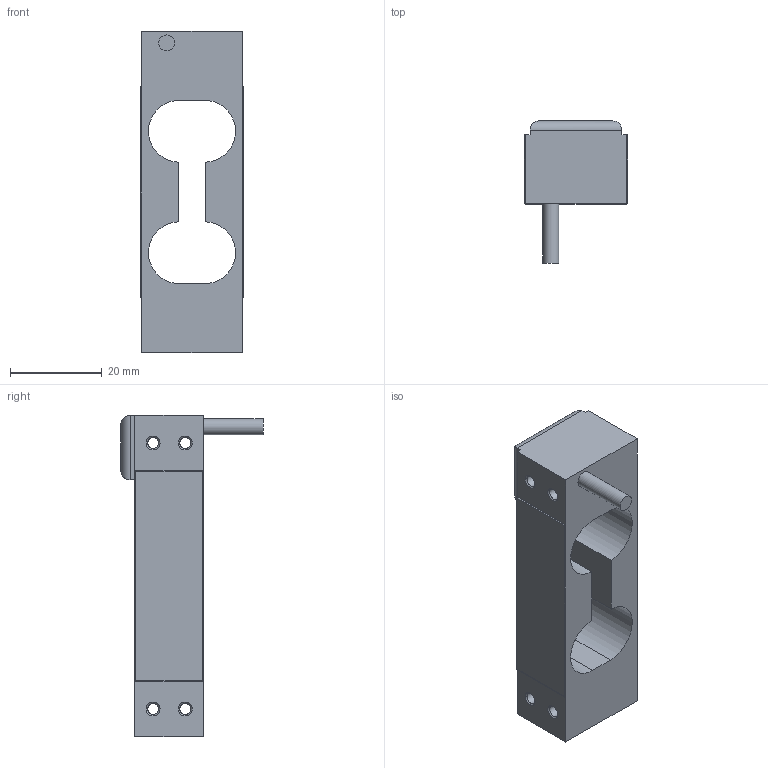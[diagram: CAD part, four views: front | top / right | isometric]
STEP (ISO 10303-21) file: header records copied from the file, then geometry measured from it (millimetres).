
FILE_DESCRIPTION (( 'STEP AP214' ), '1' );
FILE_NAME ('3D_KM202.STEP', '2013-10-02T13:31:55', ( 'mega' ), ( 'mega' ), 'SwSTEP 2.0', 'SolidWorks 2012', '' );
FILE_SCHEMA (( 'AUTOMOTIVE_DESIGN' ));
Length unit declared in the file: millimetre
Products named in the file (1): 3D_KM202
Bounding box: 22.5 x 31 x 70 mm (x, y, z)
Volume: 16211.4 mm3; surface area: 7610.2 mm2
Topology: 1 solids, 1 shells, 72 faces, 186 edges, 118 vertices
Faces by surface type: plane 31, cylinder 25, cone 16
Full cylindrical faces by diameter (mm): 2.5 x8, 3.5 x1
Entity records: 2432 total; most frequent: CARTESIAN_POINT 534, DIRECTION 325, ORIENTED_EDGE 322, EDGE_CURVE 161, AXIS2_PLACEMENT_3D 111, VERTEX_POINT 110, LINE 103, VECTOR 103
